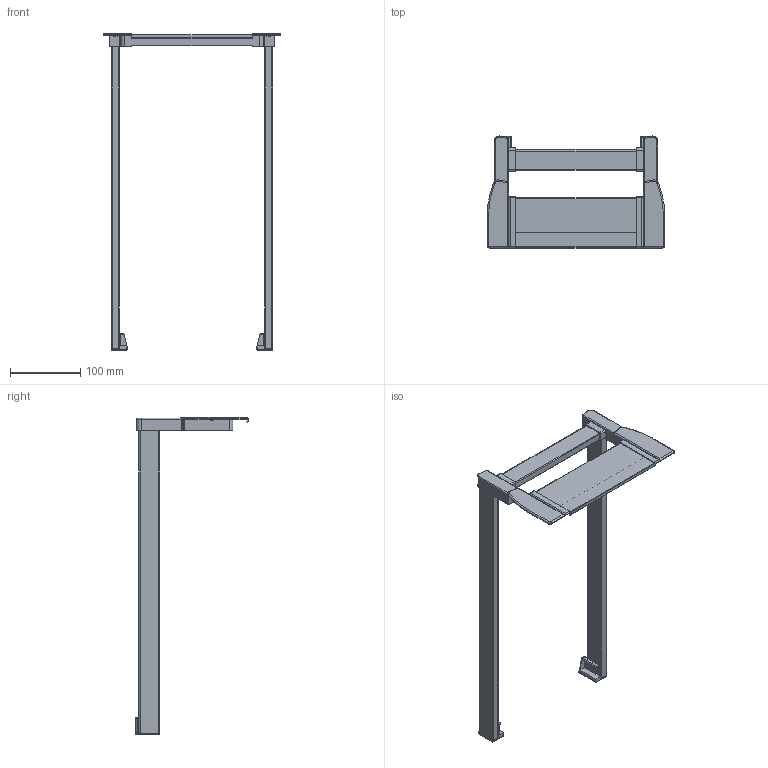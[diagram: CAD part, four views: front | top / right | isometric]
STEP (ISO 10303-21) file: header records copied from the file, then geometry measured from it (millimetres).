
FILE_DESCRIPTION (( 'STEP AP214' ), '1' );
FILE_NAME ('1_P620_NL 450_KAB 300_19er KS_.step', '2009-09-16T06:29:47', ( 'Waldinger Reinhard' ), ( 'Grass GmbH' ), 'SwSTEP 2.0', 'SolidWorks 2009', '' );
FILE_SCHEMA (( 'AUTOMOTIVE_DESIGN' ));
Length unit declared in the file: millimetre
Products named in the file (1): 1_P620_NL 450_KAB 300_19er KS_
Bounding box: 253.6 x 160.5 x 452.8 mm (x, y, z)
Volume: 600267 mm3; surface area: 147665.3 mm2
Topology: 1 solids, 1 shells, 218 faces, 576 edges, 364 vertices
Faces by surface type: plane 97, cylinder 89, torus 28, sphere 2, bspline 2
Entity records: 6974 total; most frequent: CARTESIAN_POINT 1341, DIRECTION 1192, ORIENTED_EDGE 1148, EDGE_CURVE 574, AXIS2_PLACEMENT_3D 431, VERTEX_POINT 364, LINE 330, VECTOR 330
